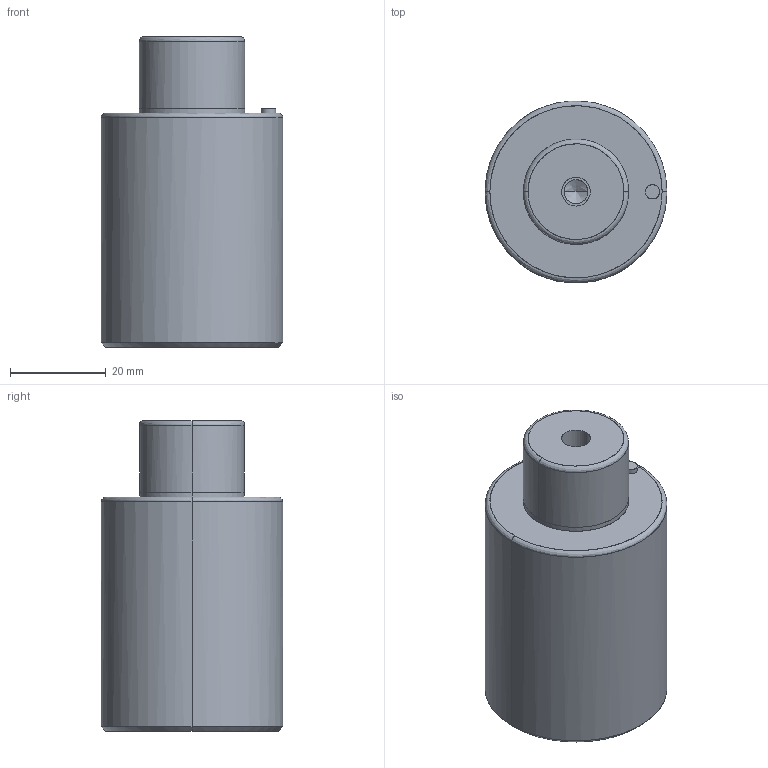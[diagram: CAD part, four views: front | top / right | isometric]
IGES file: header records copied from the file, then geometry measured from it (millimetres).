
Global section: file name: E:\UnigraphicsGraphicData\MISUMI_PRESS-PARTS\IGES\3d_gsc38-15_03839_r00.igs; native system: NX V5.0; preprocessor: UGS NX IGES V5.0; author: MISUMI; date: 20110105.160746; units: millimetre
Bounding box: 38 x 37.95 x 65 mm (x, y, z)
Surface area: 9673.7 mm2 (no closed solid volume)
Topology: 0 solids, 0 shells, 32 faces, 216 edges, 212 vertices
Faces by surface type: bspline 32
